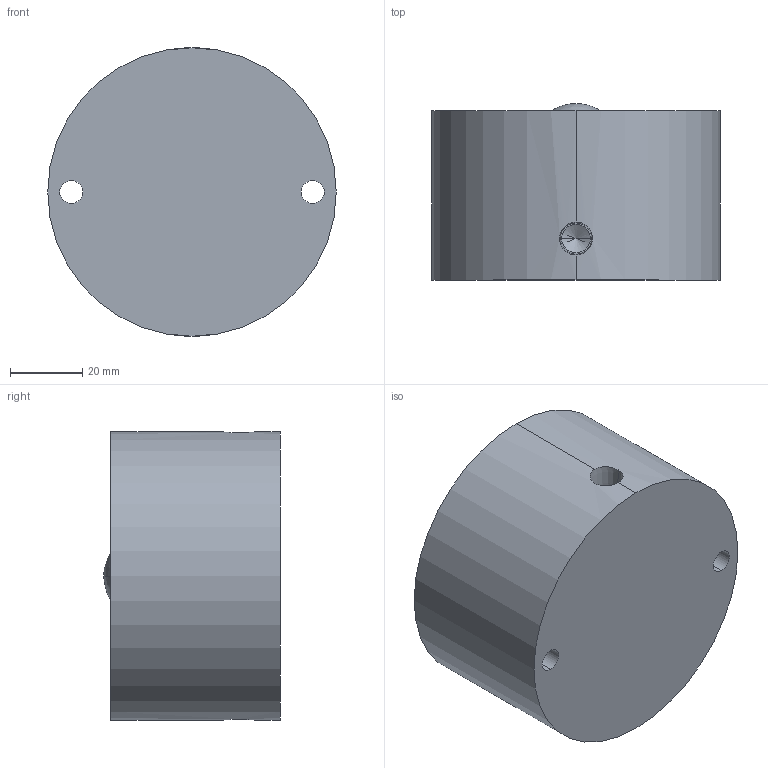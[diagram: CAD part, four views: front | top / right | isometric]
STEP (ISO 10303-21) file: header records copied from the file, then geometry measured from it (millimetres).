
FILE_DESCRIPTION (( 'STEP AP203' ), '1' );
FILE_NAME ('PV120A.STEP', '2016-01-26T02:54:45', ( '' ), ( '' ), 'SwSTEP 2.0', 'SolidWorks 2013', '' );
FILE_SCHEMA (( 'CONFIG_CONTROL_DESIGN' ));
Length unit declared in the file: millimetre
Products named in the file (1): PV120A
Bounding box: 80 x 49 x 80 mm (x, y, z)
Volume: 230302.3 mm3; surface area: 24651.1 mm2
Topology: 1 solids, 1 shells, 30 faces, 72 edges, 45 vertices
Faces by surface type: cylinder 14, cone 8, plane 6, sphere 2
Entity records: 1065 total; most frequent: CARTESIAN_POINT 280, DIRECTION 158, ORIENTED_EDGE 136, EDGE_CURVE 68, AXIS2_PLACEMENT_3D 67, VERTEX_POINT 45, EDGE_LOOP 39, CIRCLE 36
